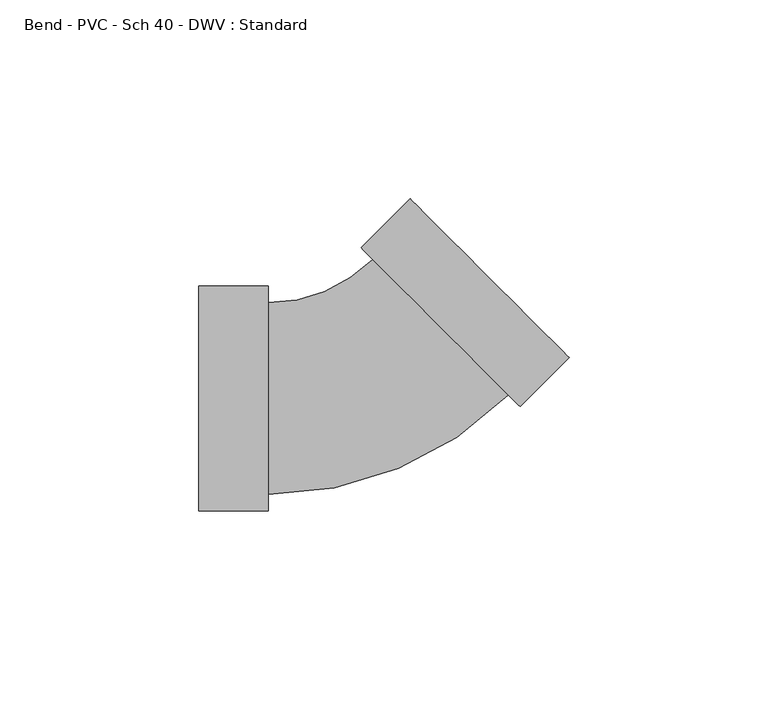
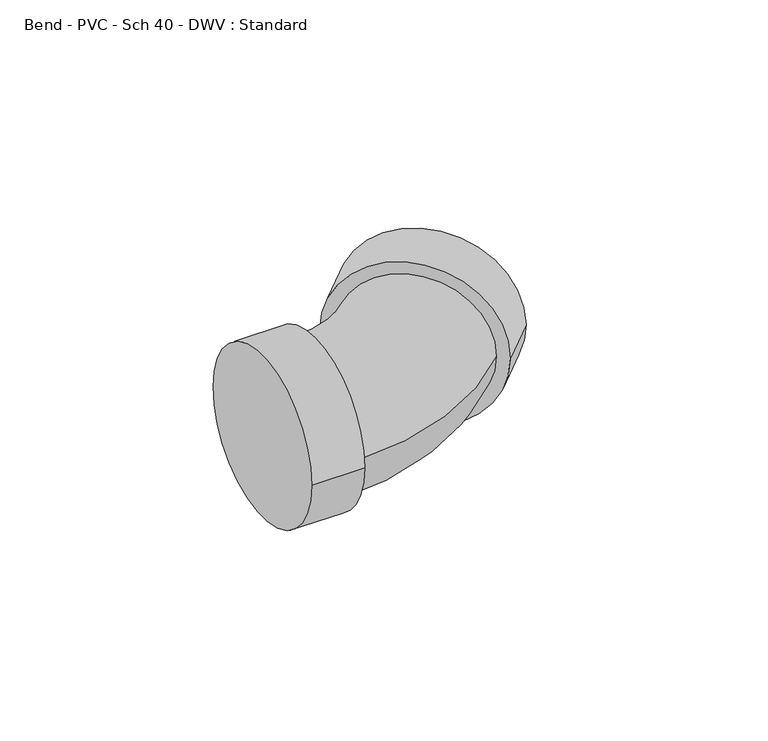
"""IFC4 building model written with IfcOpenShell, lengths in millimetres: pipe fitting geometry, Bend - PVC - Sch 40 - DWV : Standard."""

from ifc_helpers import new_model, si_unit, point, frame, origin, place, context, project, spatial, circle_curve, ellipse_curve, trimmed, source, transform, mapped, element, save
from ifc_brep_helpers import plane_surface, cylinder_surface, revolved_surface, advanced_brep


def bend_pvc_sch_40_dwv_standard_0ee0c478(model_context):
    return source(origin(), model_context, "Body", "AdvancedBrep", [
        advanced_brep(
        [(-42.8498, -28.2829, 0.0), (-42.8498, 28.2829, 0.0), (-25.4, -28.2829, 0.0), (-25.4, 28.2829, 0.0), (-25.4, -24.13, 0.0), (-25.4, 24.13, 0.0), (0.8971309, 35.0230218, 0.0), (35.0229759, 0.8989203, 0.0), (37.9595947, -2.0375484, 0.0), (-2.0394879, 37.9594905, 0.0), (50.2981514, 10.3016387, 0.0), (10.2990688, 50.2986777, 0.0)],
        [
            (0, 1, circle_curve(frame((-42.8498, 0.0, 0.0), z_axis=(-1.0, 0.0, 0.0), x_axis=(0.0, 1.0, 0.0)), 28.2829)),
            (1, 0, circle_curve(frame((-42.8498, 0.0, 0.0), z_axis=(-1.0, 0.0, 0.0), x_axis=(0.0, 1.0, 0.0)), 28.2829)),
            (2, 3, circle_curve(frame((-25.4, 0.0, 0.0), z_axis=(1.0, 0.0, 0.0), x_axis=(0.0, 1.0, 0.0)), 28.2829)),
            (3, 2, circle_curve(frame((-25.4, 0.0, 0.0), z_axis=(1.0, 0.0, 0.0), x_axis=(0.0, 1.0, 0.0)), 28.2829)),
            (4, 5, circle_curve(frame((-25.4, 0.0, 0.0), z_axis=(-1.0, 0.0, 0.0), x_axis=(0.0, 1.0, 0.0)), 24.13)),
            (5, 4, circle_curve(frame((-25.4, 0.0, 0.0), z_axis=(-1.0, 0.0, 0.0), x_axis=(0.0, 1.0, 0.0)), 24.13)),
            (0, 2),
            (3, 1),
            (6, 5, circle_curve(frame((-25.4, 61.3188092, 0.0), z_axis=(0.0, 0.0, -1.0), x_axis=(0.0, -1.0, 0.0)), 37.1888092)),
            (4, 7, circle_curve(frame((-25.4, 61.3188092, 0.0), z_axis=(0.0, 0.0, 1.0), x_axis=(0.0, -1.0, 0.0)), 85.4488092)),
            (7, 6, circle_curve(frame((17.9600534, 17.9609711, 0.0), z_axis=(-0.7070887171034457, -0.7071248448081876, 0.0), x_axis=(-0.7071248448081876, 0.7070887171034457, 0.0)), 24.13)),
            (6, 7, circle_curve(frame((17.9600534, 17.9609711, 0.0), z_axis=(-0.7070887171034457, -0.7071248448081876, 0.0), x_axis=(-0.7071248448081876, 0.7070887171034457, 0.0)), 24.13)),
            (8, 9, circle_curve(frame((17.9600534, 17.9609711, 0.0), z_axis=(-0.707088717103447, -0.7071248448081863, 0.0), x_axis=(-0.7071248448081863, 0.707088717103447, 0.0)), 28.2829)),
            (9, 8, circle_curve(frame((17.9600534, 17.9609711, 0.0), z_axis=(-0.707088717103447, -0.7071248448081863, 0.0), x_axis=(-0.7071248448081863, 0.707088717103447, 0.0)), 28.2829)),
            (10, 11, circle_curve(frame((30.2986101, 30.3001582, 0.0), z_axis=(0.707088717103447, 0.7071248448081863, 0.0), x_axis=(-0.7071248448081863, 0.707088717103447, 0.0)), 28.2829)),
            (11, 10, circle_curve(frame((30.2986101, 30.3001582, 0.0), z_axis=(0.707088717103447, 0.7071248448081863, 0.0), x_axis=(-0.7071248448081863, 0.707088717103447, 0.0)), 28.2829)),
            (8, 10),
            (11, 9),
        ],
        [
            plane_surface(frame((-42.8498, 0.0, 0.0), z_axis=(-1.0, 0.0, 0.0), x_axis=(0.0, 0.0, 1.0))),
            plane_surface(frame((-25.4, 0.0, 0.0), z_axis=(1.0, 0.0, 0.0), x_axis=(0.0, 0.0, 1.0))),
            cylinder_surface(frame((-42.8498, 0.0, 0.0), z_axis=(-1.0, 0.0, 0.0), x_axis=(0.0, 1.0, 0.0)), 28.2829),
            revolved_surface(trimmed(ellipse_curve(frame((-25.4, 0.0, 0.0), z_axis=(-1.0, 0.0, 0.0), x_axis=(0.0, 1.0, 0.0)), 24.13, 24.13), [point((-25.4, -24.13, 0.0))], [point((-25.4, 24.13, 0.0))], True, "CARTESIAN"), (-25.4, 61.3188092, 0.0), (0.0, 0.0, 1.0)),
            revolved_surface(trimmed(ellipse_curve(frame((-25.4, 0.0, 0.0), z_axis=(-1.0, 0.0, 0.0), x_axis=(0.0, 1.0, 0.0)), 24.13, 24.13), [point((-25.4, 24.13, 0.0))], [point((-25.4, -24.13, 0.0))], True, "CARTESIAN"), (-25.4, 61.3188092, 0.0), (0.0, 0.0, 1.0)),
            plane_surface(frame((17.9600534, 17.9609711, 0.0), z_axis=(-0.707088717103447, -0.7071248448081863, 0.0), x_axis=(0.0, 0.0, 1.0))),
            plane_surface(frame((30.2986101, 30.3001582, 0.0), z_axis=(0.707088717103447, 0.7071248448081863, 0.0), x_axis=(0.0, 0.0, 1.0))),
            cylinder_surface(frame((17.9600534, 17.9609711, 0.0), z_axis=(-0.707088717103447, -0.7071248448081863, 0.0), x_axis=(-0.7071248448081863, 0.707088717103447, 0.0)), 28.2829),
        ],
        [
            (0, [[1, 2]]),
            (1, [[3, 4], [5, 6]]),
            (2, [[-1, 7, -4, 8]]),
            (2, [[-2, -8, -3, -7]]),
            (3, [[9, -5, 10, 11]]),
            (4, [[-9, 12, -10, -6]]),
            (5, [[13, 14], [-11, -12]]),
            (6, [[15, 16]]),
            (7, [[-13, 17, -16, 18]]),
            (7, [[-14, -18, -15, -17]]),
        ],
    ),
    ])


if __name__ == "__main__":
    model = new_model("IFC4")
    model_context = context("Model", 3, world=origin())
    ifc_project = project(units=[si_unit("LENGTHUNIT", "METRE", prefix="MILLI")], contexts=[model_context])
    site = spatial("IfcSite", under=ifc_project)
    building = spatial("IfcBuilding", under=site)
    placement = place(None, origin())
    bend_pvc_sch_40_dwv_standard_shape = bend_pvc_sch_40_dwv_standard_0ee0c478(model_context)
    element("IfcPipeFitting", 1, ObjectType="Bend - PVC - Sch 40 - DWV : Standard", at=placement, inside=building, context=model_context, shape_type="MappedRepresentation", body=[
        mapped(bend_pvc_sch_40_dwv_standard_shape, transform((0.0, 0.0, 0.0), x_axis=(1.0, 0.0, 0.0), y_axis=(0.0, 1.0, 0.0), z_axis=(0.0, 0.0, 1.0))),
    ])
    save(model, "model.ifc")
